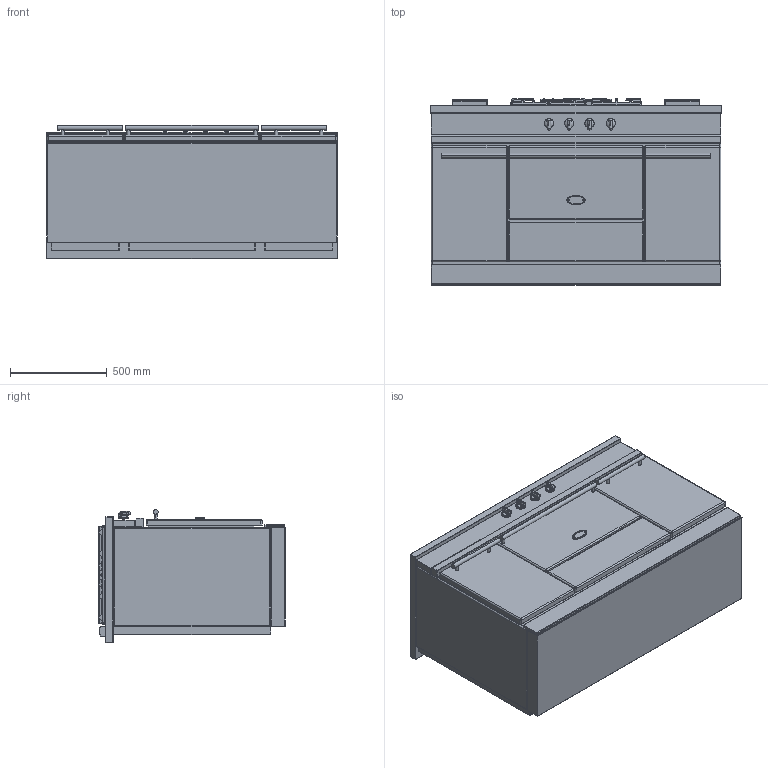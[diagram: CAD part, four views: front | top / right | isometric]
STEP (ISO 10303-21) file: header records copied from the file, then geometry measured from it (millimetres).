
FILE_DESCRIPTION((''),'2;1');
FILE_NAME('LMG1531_ASM','2022-04-13T14:20:40',('stagiaire'),(''),'CREO PARAMETRIC BY PTC INC, 2021424','CREO PARAMETRIC BY PTC INC, 2021424','');
FILE_SCHEMA(('AP203_CONFIGURATION_CONTROLLED_3D_DESIGN_OF_MECHANICAL_PARTS_AND_ASSEMBLIES_MIM_LF { 1 0 10303 403 2 1 2 }'));
Products named in the file (20): BASE_EXPORT_FONTENAY_LMG1531; 65049009; 65650001; 65064012; 19150009; 88064012_ASM; BASE_EXPORT_FONTENAY_LMG1531_ASM; TABLE_1505_CLASSIQUE_3_FEUX; 5KW; 1_5KW; 3KW; 6537025; 65149005; 90000488_ASM; 6537023; 90000565_ASM; CHEMINEE_2020_LG182_EXPORT_STEP; CHEMINEE_2020_LG371_EXPORT_STEP; TABLE_1505_CLASSIQUE_3_FEUX_ASM; LMG1531_ASM
Assembly tree (31 placements, depth 4):
  LMG1531_ASM
    BASE_EXPORT_FONTENAY_LMG1531_ASM
      BASE_EXPORT_FONTENAY_LMG1531
      65049009
      65650001
      88064012_ASM  x4
        65064012
        19150009
    TABLE_1505_CLASSIQUE_3_FEUX_ASM
      TABLE_1505_CLASSIQUE_3_FEUX
      5KW
      1_5KW
      3KW
      90000488_ASM  x2
        6537025
        65149005
      90000565_ASM
        6537023
        65149005  x4
      CHEMINEE_2020_LG182_EXPORT_STEP  x2
      CHEMINEE_2020_LG371_EXPORT_STEP
Bounding box: 1505 x 965 x 688.5 mm (x, y, z)
Volume: 548303979.2 mm3; surface area: 13133421.7 mm2
Topology: 37 solids, 37 shells, 4361 faces, 11943 edges, 7628 vertices
Faces by surface type: cylinder 1521, plane 1344, bspline 900, sphere 234, cone 212, torus 128, extrusion 22
Entity records: 139058 total; most frequent: CARTESIAN_POINT 47866, ORIENTED_EDGE 14930, DIRECTION 13691, EDGE_CURVE 7465, AXIS2_PLACEMENT_3D 4594, VERTEX_POINT 4534, VECTOR 4448, LINE 4426
